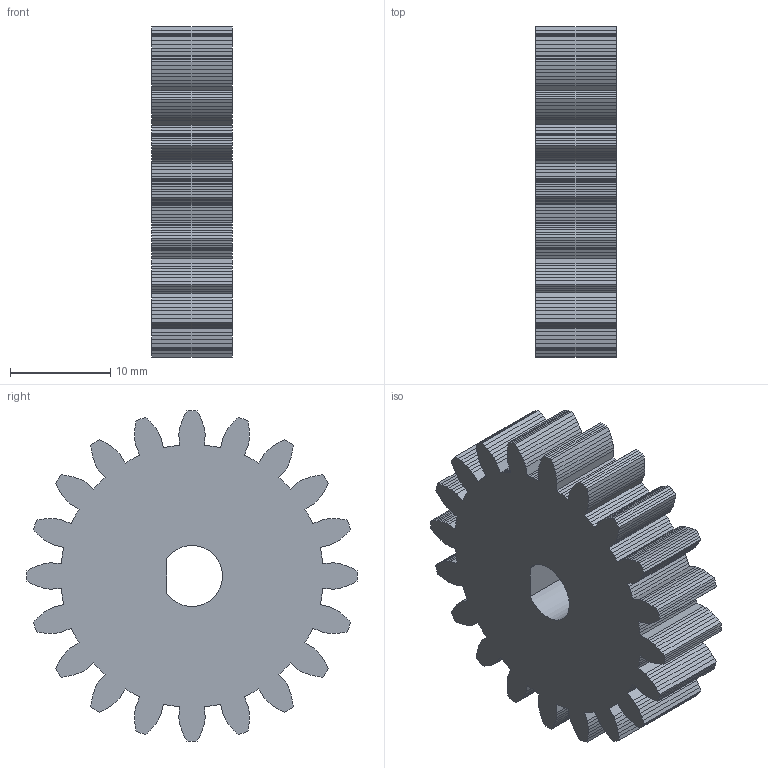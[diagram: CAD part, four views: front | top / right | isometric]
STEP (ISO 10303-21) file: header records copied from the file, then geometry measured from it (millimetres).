
FILE_DESCRIPTION(('Open CASCADE Model'),'2;1');
FILE_NAME('Open CASCADE Shape Model','2026-10-16T00:24:49',('Author'),( 'Open CASCADE'),'Open CASCADE STEP processor 7.9','Open CASCADE 7.9' ,'Unknown');
FILE_SCHEMA(('AUTOMOTIVE_DESIGN { 1 0 10303 214 1 1 1 1 }'));
Length unit declared in the file: millimetre
Products named in the file (1): Open CASCADE STEP translator 7.9 7
Bounding box: 8 x 33 x 33 mm (x, y, z)
Volume: 5291.9 mm3; surface area: 3053.8 mm2
Topology: 1 solids, 1 shells, 504 faces, 1506 edges, 1004 vertices
Faces by surface type: plane 503, cylinder 1
Entity records: 36190 total; most frequent: CARTESIAN_POINT 6039, DIRECTION 5528, LINE 4514, VECTOR 4514, ORIENTED_EDGE 3012, PCURVE 3012, DEFINITIONAL_REPRESENTATION 3012, EDGE_CURVE 1506
